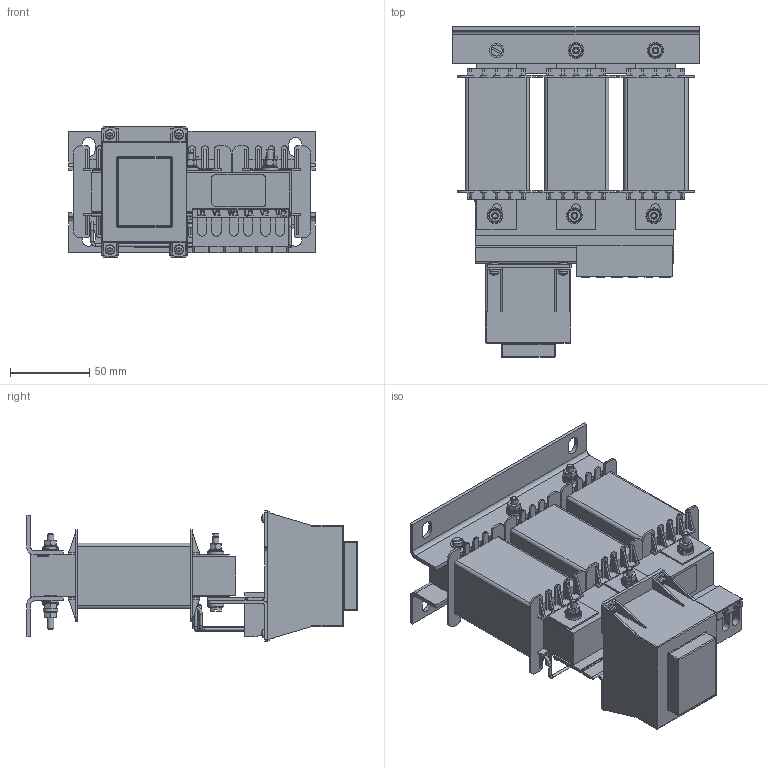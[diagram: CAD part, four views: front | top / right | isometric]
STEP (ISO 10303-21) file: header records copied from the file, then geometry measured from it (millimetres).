
FILE_DESCRIPTION((''),'2;1');
FILE_NAME('C:\Users\Samuel.Meier\Desktop\STEPPS\FN5040-8-82.stp','2016-04-25T17:37:18',('samuel.meier'),(''),'Autodesk Inventor 2013','Autodesk Inventor 2013','');
FILE_SCHEMA(('CONFIG_CONTROL_DESIGN'));
Length unit declared in the file: millimetre
Products named in the file (1): FN5040-8-82
Bounding box: 155 x 208.1 x 82.5 mm (x, y, z)
Volume: 637461.9 mm3; surface area: 239351.9 mm2
Topology: 1 solids, 1 shells, 1977 faces, 5282 edges, 3339 vertices
Faces by surface type: plane 1402, cylinder 384, torus 99, bspline 52, cone 28, sphere 12
Full cylindrical faces by diameter (mm): 1.7 x20, 1.712 x4, 2.731 x5, 3 x8, 3.2 x4, 4 x13, 4.1 x10, 4.2 x4, 4.3 x13, 5 x3, 5.2 x14, 5.5 x9, 5.623 x1, 5.8 x6, 6 x10, 7 x6, 9 x13, 10 x10
Entity records: 63434 total; most frequent: CARTESIAN_POINT 13434, ORIENTED_EDGE 10010, DIRECTION 9587, EDGE_CURVE 5005, VECTOR 3607, LINE 3607, VERTEX_POINT 3264, AXIS2_PLACEMENT_3D 2990
